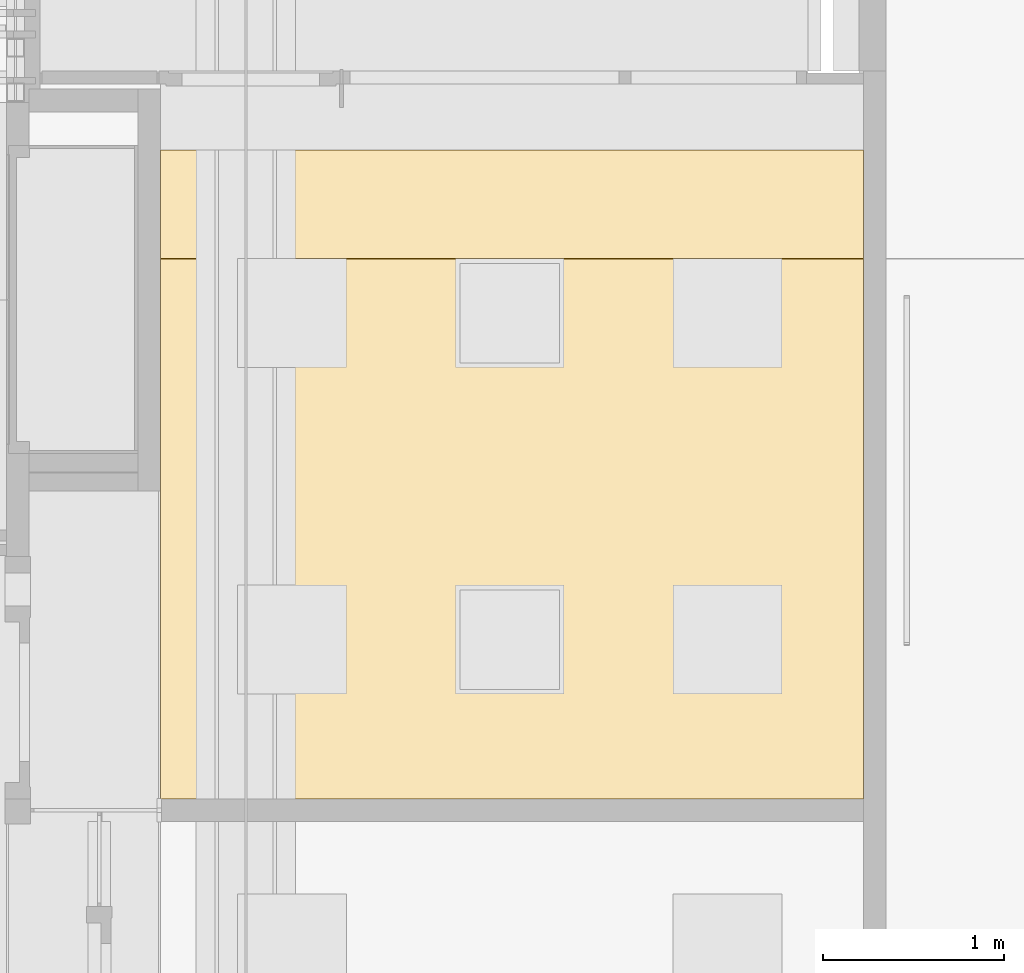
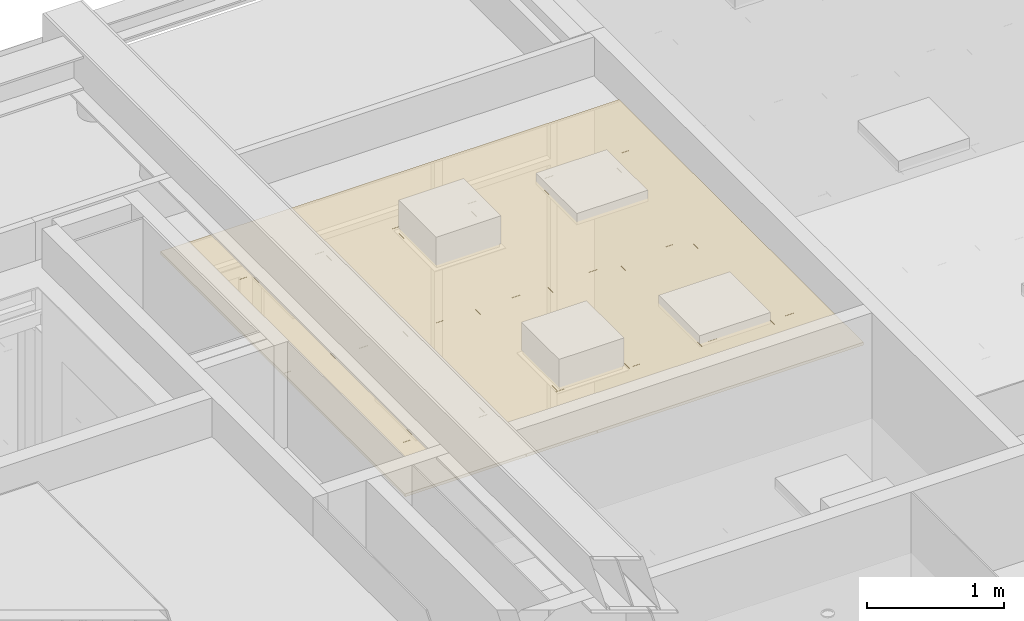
# One storey, part 175 of 347: 1 covering.
"""IFC2X3 building model written with IfcOpenShell, lengths in millimetres."""

from ifc_helpers import new_model, entity, si_unit, converted_unit, derived_unit, money_unit, direction, frame, origin_with_axes, place, context, subcontext, project, spatial, faceted_brep, type_object, element, save


model = new_model("IFC2X3")

# Units and contexts
model_context = context("Model", 3, precision=0.01, world=origin_with_axes(), true_north=direction((0.0, 1.0)))
plan_context = context("Plan", 3, precision=0.01, world=origin_with_axes(), true_north=direction((0.0, 1.0)))
body_context = subcontext(model_context, "Body", "Model", "MODEL_VIEW")
ifc_project = project(units=[si_unit("LENGTHUNIT", "METRE", prefix="MILLI"), si_unit("AREAUNIT", "SQUARE_METRE"), si_unit("VOLUMEUNIT", "CUBIC_METRE"), converted_unit("PLANEANGLEUNIT", "DEGREE", entity("IfcPlaneAngleMeasure", 0.0174532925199), si_unit("PLANEANGLEUNIT", "RADIAN"), dimensions=[0, 0, 0, 0, 0, 0, 0]), money_unit("EUR"), converted_unit("TIMEUNIT", "Year", entity("IfcTimeMeasure", 31556926.0), si_unit("TIMEUNIT", "SECOND"), dimensions=[0, 0, 1, 0, 0, 0, 0]), si_unit("MASSUNIT", "GRAM", prefix="KILO"), si_unit("THERMODYNAMICTEMPERATUREUNIT", "DEGREE_CELSIUS"), si_unit("LUMINOUSINTENSITYUNIT", "LUMEN"), si_unit("ENERGYUNIT", "JOULE", prefix="MEGA"), derived_unit("THERMALCONDUCTANCEUNIT", [(si_unit("POWERUNIT", "WATT"), 1), (si_unit("LENGTHUNIT", "METRE"), -1), (si_unit("THERMODYNAMICTEMPERATUREUNIT", "KELVIN"), -1)]), derived_unit("SPECIFICHEATCAPACITYUNIT", [(si_unit("ENERGYUNIT", "JOULE"), 1), (si_unit("MASSUNIT", "GRAM", prefix="KILO"), -1), (si_unit("THERMODYNAMICTEMPERATUREUNIT", "KELVIN"), -1)]), derived_unit("MASSDENSITYUNIT", [(si_unit("MASSUNIT", "GRAM", prefix="KILO"), 1), (si_unit("VOLUMEUNIT", "CUBIC_METRE"), -1)])], contexts=[model_context, plan_context])

# Site, building, storey
site_placement = place(None, origin_with_axes())
site = spatial("IfcSite", under=ifc_project, at=site_placement, Name="Site", CompositionType="ELEMENT")
building_placement = place(site_placement, origin_with_axes())
building = spatial("IfcBuilding", under=site, at=building_placement, Name="Naam gebouw", CompositionType="ELEMENT")
storey_placement = place(building_placement, origin_with_axes())
storey = spatial("IfcBuildingStorey", under=building, at=storey_placement, Name="begane grond", CompositionType="ELEMENT", Elevation=0.0)

# Covering
covering_type = type_object("IfcCoveringType", Name="Ceiling Editor INT_v2.01", PredefinedType="CEILING")
covering_placement = place(storey_placement, frame((47950.0, 41212.5, 3200.0), z_axis=(0.0, 0.0, 1.0), x_axis=(1.0, 0.0, 0.0)))
element("IfcCovering", 1, at=covering_placement, inside=storey, type_object=covering_type, Name="45 Plafondafwerkingen_77 garderobe", PredefinedType="CEILING", context=body_context, shape_type="Brep", body=[
    faceted_brep([(0.0, 0.0, 20.0), (0.0, 577.9, 20.0), (-449.9, 577.9, 20.0), (-449.9, 0.0, 20.0), (0.0, 0.0, 0.0), (0.0, 577.9, 0.0), (-449.9, 577.9, 0.0), (-449.9, 0.0, 0.0)], [[[0, 1, 2, 3]], [[1, 0, 4, 5]], [[5, 6, 2, 1]], [[3, 2, 6, 7]], [[3, 7, 4, 0]], [[4, 7, 6, 5]]]),
    faceted_brep([(0.0, 1777.9, 0.0), (-449.9, 1777.9, 0.0), (-449.9, 1777.9, 20.0), (0.0, 1777.9, 20.0), (0.0, 978.125, 0.0), (0.0, 578.1, 0.0), (-449.9, 578.1, 0.0), (-449.9, 578.1, 20.0), (0.0, 978.125, 20.0), (0.0, 578.1, 20.0)], [[[0, 1, 2, 3]], [[4, 5, 6, 1, 0]], [[7, 2, 1, 6]], [[8, 3, 2, 7, 9]], [[3, 8, 4, 0]], [[9, 5, 4, 8]], [[9, 7, 6, 5]]]),
    faceted_brep([(-0.000220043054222, 2977.9, 0.0), (-449.9, 2977.9, 0.0), (-449.9, 2977.9, 20.0), (-0.000220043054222, 2977.9, 20.0), (0.0, 2934.375, 0.0), (0.0, 1956.25, 0.0), (0.0, 1778.1, 0.0), (-449.9, 1778.1, 0.0), (-449.9, 1778.1, 20.0), (0.0, 1956.25, 20.0), (0.0, 2934.375, 20.0), (0.0, 1778.1, 20.0)], [[[0, 1, 2, 3]], [[4, 5, 6, 7, 1, 0]], [[8, 2, 1, 7]], [[9, 10, 3, 2, 8, 11]], [[3, 10, 4, 0]], [[9, 5, 4, 10]], [[11, 6, 5, 9]], [[11, 8, 7, 6]]]),
    faceted_brep([(-449.9, 3578.5, 0.0), (-449.9, 2978.1, 0.0), (-449.9, 2978.1, 20.0), (-449.9, 3578.5, 20.0), (-0.00325640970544, 3578.5, 0.0), (-0.000221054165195, 2978.1, 0.0), (-0.000221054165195, 2978.1, 20.0), (-0.00325640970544, 3578.5, 20.0)], [[[0, 1, 2, 3]], [[4, 5, 1, 0]], [[6, 2, 1, 5]], [[7, 3, 2, 6]], [[3, 7, 4, 0]], [[6, 5, 4, 7]]]),
    faceted_brep([(-968.75, 0.0, 20.0), (-450.1, 0.0, 20.0), (-450.1, 577.9, 20.0), (-1049.9, 577.9, 20.0), (-1049.9, 0.0, 20.0), (-968.75, 0.0, 0.0), (-450.1, 0.0, 0.0), (-450.1, 577.9, 0.0), (-1049.9, 577.9, 0.0), (-1049.9, 0.0, 0.0)], [[[0, 1, 2, 3, 4]], [[0, 5, 6, 1]], [[6, 7, 2, 1]], [[3, 2, 7, 8]], [[4, 3, 8, 9]], [[4, 9, 5, 0]], [[5, 9, 8, 7, 6]]]),
    faceted_brep([(-1049.9, 578.1, 20.0), (-1049.9, 1777.9, 20.0), (-1049.9, 1777.9, 0.0), (-1049.9, 578.1, 0.0), (-450.1, 578.1, 20.0), (-450.1, 1777.9, 20.0), (-450.1, 1777.9, 0.0), (-450.1, 578.1, 0.0)], [[[0, 1, 2, 3]], [[4, 5, 1, 0]], [[1, 5, 6, 2]], [[2, 6, 7, 3]], [[4, 0, 3, 7]], [[5, 4, 7, 6]]]),
    faceted_brep([(-1049.9, 1778.1, 20.0), (-1049.9, 2977.9, 20.0), (-1049.9, 2977.9, 0.0), (-1049.9, 1778.1, 0.0), (-450.1, 1778.1, 20.0), (-450.1, 2977.9, 20.0), (-450.1, 2977.9, 0.0), (-450.1, 1778.1, 0.0)], [[[0, 1, 2, 3]], [[4, 5, 1, 0]], [[1, 5, 6, 2]], [[2, 6, 7, 3]], [[4, 0, 3, 7]], [[5, 4, 7, 6]]]),
    faceted_brep([(-1049.9, 3578.5, 0.0), (-1049.9, 2978.1, 0.0), (-1049.9, 2978.1, 20.0), (-1049.9, 3578.5, 20.0), (-450.1, 3578.5, 0.0), (-450.1, 2978.1, 0.0), (-450.1, 2978.1, 20.0), (-450.1, 3578.5, 20.0)], [[[0, 1, 2, 3]], [[4, 5, 1, 0]], [[6, 2, 1, 5]], [[3, 2, 6, 7]], [[3, 7, 4, 0]], [[7, 6, 5, 4]]]),
    faceted_brep([(-1050.1, 0.0, 20.0), (-1050.1, 577.9, 20.0), (-1649.9, 577.9, 20.0), (-1649.9, 0.0, 20.0), (-1050.1, 0.0, 0.0), (-1050.1, 577.9, 0.0), (-1649.9, 577.9, 0.0), (-1649.9, 0.0, 0.0)], [[[0, 1, 2, 3]], [[4, 5, 1, 0]], [[2, 1, 5, 6]], [[3, 2, 6, 7]], [[3, 7, 4, 0]], [[7, 6, 5, 4]]]),
    faceted_brep([(-1649.9, 578.1, 20.0), (-1649.9, 1777.9, 20.0), (-1649.9, 1777.9, 0.0), (-1649.9, 578.1, 0.0), (-1050.1, 578.1, 20.0), (-1050.1, 1777.9, 20.0), (-1050.1, 1777.9, 0.0), (-1050.1, 578.1, 0.0)], [[[0, 1, 2, 3]], [[4, 5, 1, 0]], [[1, 5, 6, 2]], [[2, 6, 7, 3]], [[4, 0, 3, 7]], [[5, 4, 7, 6]]]),
    faceted_brep([(-1649.9, 1778.1, 20.0), (-1649.9, 2977.9, 20.0), (-1649.9, 2977.9, 0.0), (-1649.9, 1778.1, 0.0), (-1050.1, 1778.1, 20.0), (-1050.1, 2977.9, 20.0), (-1050.1, 2977.9, 0.0), (-1050.1, 1778.1, 0.0)], [[[0, 1, 2, 3]], [[4, 5, 1, 0]], [[1, 5, 6, 2]], [[2, 6, 7, 3]], [[4, 0, 3, 7]], [[5, 4, 7, 6]]]),
    faceted_brep([(-1649.9, 3578.5, 0.0), (-1649.9, 2978.1, 0.0), (-1649.9, 2978.1, 20.0), (-1649.9, 3578.5, 20.0), (-1222.4308739, 3578.5, 0.0), (-1050.1, 3578.5, 0.0), (-1050.1, 2978.1, 0.0), (-1050.1, 2978.1, 20.0), (-1222.4308739, 3578.5, 20.0), (-1050.1, 3578.5, 20.0)], [[[0, 1, 2, 3]], [[4, 5, 6, 1, 0]], [[7, 2, 1, 6]], [[8, 3, 2, 7, 9]], [[3, 8, 4, 0]], [[9, 5, 4, 8]], [[9, 7, 6, 5]]]),
    faceted_brep([(-1937.5, 0.0, 20.0), (-1650.1, 0.0, 20.0), (-1650.1, 577.9, 20.0), (-2249.9, 577.9, 20.0), (-2249.9, 0.0, 20.0), (-1937.5, 0.0, 0.0), (-1650.1, 0.0, 0.0), (-1650.1, 577.9, 0.0), (-2249.9, 577.9, 0.0), (-2249.9, 0.0, 0.0)], [[[0, 1, 2, 3, 4]], [[0, 5, 6, 1]], [[6, 7, 2, 1]], [[3, 2, 7, 8]], [[4, 3, 8, 9]], [[4, 9, 5, 0]], [[5, 9, 8, 7, 6]]]),
    faceted_brep([(-2249.9, 578.1, 20.0), (-2249.9, 1777.9, 20.0), (-2249.9, 1777.9, 0.0), (-2249.9, 578.1, 0.0), (-1650.1, 578.1, 20.0), (-1650.1, 1777.9, 20.0), (-1650.1, 1777.9, 0.0), (-1650.1, 578.1, 0.0)], [[[0, 1, 2, 3]], [[4, 5, 1, 0]], [[1, 5, 6, 2]], [[2, 6, 7, 3]], [[4, 0, 3, 7]], [[5, 4, 7, 6]]]),
    faceted_brep([(-2249.9, 1778.1, 20.0), (-2249.9, 2977.9, 20.0), (-2249.9, 2977.9, 0.0), (-2249.9, 1778.1, 0.0), (-1650.1, 1778.1, 20.0), (-1650.1, 2977.9, 20.0), (-1650.1, 2977.9, 0.0), (-1650.1, 1778.1, 0.0)], [[[0, 1, 2, 3]], [[4, 5, 1, 0]], [[1, 5, 6, 2]], [[2, 6, 7, 3]], [[4, 0, 3, 7]], [[5, 4, 7, 6]]]),
    faceted_brep([(-2249.9, 3578.5, 0.0), (-2249.9, 2978.1, 0.0), (-2249.9, 2978.1, 20.0), (-2249.9, 3578.5, 20.0), (-2026.99503027, 3578.5, 0.0), (-1650.1, 3578.5, 0.0), (-1650.1, 2978.1, 0.0), (-1650.1, 2978.1, 20.0), (-2026.99503027, 3578.5, 20.0), (-1650.1, 3578.5, 20.0)], [[[0, 1, 2, 3]], [[4, 5, 6, 1, 0]], [[7, 2, 1, 6]], [[8, 3, 2, 7, 9]], [[3, 8, 4, 0]], [[9, 5, 4, 8]], [[9, 7, 6, 5]]]),
    faceted_brep([(-2250.1, 0.0, 20.0), (-2250.1, 577.9, 20.0), (-2849.9, 577.9, 20.0), (-2849.9, 0.0, 20.0), (-2250.1, 0.0, 0.0), (-2250.1, 577.9, 0.0), (-2849.9, 577.9, 0.0), (-2849.9, 0.0, 0.0)], [[[0, 1, 2, 3]], [[4, 5, 1, 0]], [[2, 1, 5, 6]], [[3, 2, 6, 7]], [[3, 7, 4, 0]], [[7, 6, 5, 4]]]),
    faceted_brep([(-2849.9, 578.1, 20.0), (-2849.9, 1777.9, 20.0), (-2849.9, 1777.9, 0.0), (-2849.9, 578.1, 0.0), (-2250.1, 578.1, 20.0), (-2250.1, 1777.9, 20.0), (-2250.1, 1777.9, 0.0), (-2250.1, 578.1, 0.0)], [[[0, 1, 2, 3]], [[4, 5, 1, 0]], [[1, 5, 6, 2]], [[2, 6, 7, 3]], [[4, 0, 3, 7]], [[5, 4, 7, 6]]]),
    faceted_brep([(-2849.9, 1778.1, 20.0), (-2849.9, 2977.9, 20.0), (-2849.9, 2977.9, 0.0), (-2849.9, 1778.1, 0.0), (-2250.1, 1778.1, 20.0), (-2250.1, 2977.9, 20.0), (-2250.1, 2977.9, 0.0), (-2250.1, 1778.1, 0.0)], [[[0, 1, 2, 3]], [[4, 5, 1, 0]], [[1, 5, 6, 2]], [[2, 6, 7, 3]], [[4, 0, 3, 7]], [[5, 4, 7, 6]]]),
    faceted_brep([(-2849.9, 3578.5, 0.0), (-2849.9, 2978.1, 0.0), (-2849.9, 2978.1, 20.0), (-2849.9, 3578.5, 20.0), (-2748.79430981, 3578.5, 0.0), (-2250.1, 3578.5, 0.0), (-2250.1, 2978.1, 0.0), (-2250.1, 2978.1, 20.0), (-2748.79430981, 3578.5, 20.0), (-2250.1, 3578.5, 20.0)], [[[0, 1, 2, 3]], [[4, 5, 6, 1, 0]], [[7, 2, 1, 6]], [[8, 3, 2, 7, 9]], [[3, 8, 4, 0]], [[9, 5, 4, 8]], [[9, 7, 6, 5]]]),
    faceted_brep([(-2906.25, 0.0, 20.0), (-2850.1, 0.0, 20.0), (-2850.1, 577.9, 20.0), (-3449.9, 577.9, 20.0), (-3449.9, 0.0, 20.0), (-2906.25, 0.0, 0.0), (-2850.1, 0.0, 0.0), (-2850.1, 577.9, 0.0), (-3449.9, 577.9, 0.0), (-3449.9, 0.0, 0.0)], [[[0, 1, 2, 3, 4]], [[0, 5, 6, 1]], [[6, 7, 2, 1]], [[3, 2, 7, 8]], [[4, 3, 8, 9]], [[4, 9, 5, 0]], [[5, 9, 8, 7, 6]]]),
    faceted_brep([(-3449.9, 578.1, 20.0), (-3449.9, 1777.9, 20.0), (-3449.9, 1777.9, 0.0), (-3449.9, 578.1, 0.0), (-2850.1, 578.1, 20.0), (-2850.1, 1777.9, 20.0), (-2850.1, 1777.9, 0.0), (-2850.1, 578.1, 0.0)], [[[0, 1, 2, 3]], [[4, 5, 1, 0]], [[1, 5, 6, 2]], [[2, 6, 7, 3]], [[4, 0, 3, 7]], [[5, 4, 7, 6]]]),
    faceted_brep([(-3449.9, 1778.1, 20.0), (-3449.9, 2977.9, 20.0), (-3449.9, 2977.9, 0.0), (-3449.9, 1778.1, 0.0), (-2850.1, 1778.1, 20.0), (-2850.1, 2977.9, 20.0), (-2850.1, 2977.9, 0.0), (-2850.1, 1778.1, 0.0)], [[[0, 1, 2, 3]], [[4, 5, 1, 0]], [[1, 5, 6, 2]], [[2, 6, 7, 3]], [[4, 0, 3, 7]], [[5, 4, 7, 6]]]),
    faceted_brep([(-3449.9, 3578.5, 0.0), (-3449.9, 2978.1, 0.0), (-3449.9, 2978.1, 20.0), (-3449.9, 3578.5, 20.0), (-2850.1, 3578.5, 0.0), (-2850.1, 2978.1, 0.0), (-2850.1, 2978.1, 20.0), (-2850.1, 3578.5, 20.0)], [[[0, 1, 2, 3]], [[4, 5, 1, 0]], [[6, 2, 1, 5]], [[3, 2, 6, 7]], [[3, 7, 4, 0]], [[7, 6, 5, 4]]]),
    faceted_brep([(-3875.0, 0.0, 20.0), (-3450.1, 0.0, 20.0), (-3450.1, 577.9, 20.0), (-3875.0, 577.9, 20.0), (-3875.0, 0.0, 0.0), (-3450.1, 0.0, 0.0), (-3450.1, 577.9, 0.0), (-3875.0, 577.9, 0.0)], [[[0, 1, 2, 3]], [[0, 4, 5, 1]], [[5, 6, 2, 1]], [[3, 2, 6, 7]], [[3, 7, 4, 0]], [[4, 7, 6, 5]]]),
    faceted_brep([(-3875.0, 578.1, 20.0), (-3450.1, 578.1, 20.0), (-3450.1, 1777.9, 20.0), (-3875.0, 1777.9, 20.0), (-3875.0, 578.1, 0.0), (-3450.1, 578.1, 0.0), (-3450.1, 1777.9, 0.0), (-3875.0, 1777.9, 0.0)], [[[0, 1, 2, 3]], [[4, 5, 1, 0]], [[2, 1, 5, 6]], [[3, 2, 6, 7]], [[3, 7, 4, 0]], [[7, 6, 5, 4]]]),
    faceted_brep([(-3875.0, 2934.375, 20.0), (-3875.0, 1778.1, 20.0), (-3450.1, 1778.1, 20.0), (-3450.1, 2977.9, 20.0), (-3875.0, 2977.9, 20.0), (-3875.0, 2934.375, 0.0), (-3875.0, 1778.1, 0.0), (-3450.1, 1778.1, 0.0), (-3450.1, 2977.9, 0.0), (-3875.0, 2977.9, 0.0)], [[[0, 1, 2, 3, 4]], [[0, 5, 6, 1]], [[6, 7, 2, 1]], [[3, 2, 7, 8]], [[4, 3, 8, 9]], [[4, 9, 5, 0]], [[5, 9, 8, 7, 6]]]),
    faceted_brep([(-3875.0, 2978.1, 20.0), (-3450.1, 2978.1, 20.0), (-3450.1, 3578.5, 20.0), (-3875.0, 3578.5, 20.0), (-3875.0, 2978.1, 0.0), (-3450.1, 2978.1, 0.0), (-3450.1, 3578.5, 0.0), (-3875.0, 3578.5, 0.0)], [[[0, 1, 2, 3]], [[4, 5, 1, 0]], [[2, 1, 5, 6]], [[2, 6, 7, 3]], [[3, 7, 4, 0]], [[7, 6, 5, 4]]]),
    faceted_brep([(-3875.0, 0.0, 0.0), (-3875.0, 565.5, 0.0), (-3875.0, 590.5, 0.0), (-3875.0, 1765.5, 0.0), (-3875.0, 1778.0, 0.0), (-3875.0, 1778.0, -5.0), (-3875.0, 1765.5, -5.0), (-3875.0, 590.5, -5.0), (-3875.0, 565.5, -5.0), (-3875.0, 0.0, -5.0), (-2237.5, 0.0, 0.0), (-1662.5, 0.0, 0.0), (-1637.5, 0.0, 0.0), (-1062.5, 0.0, 0.0), (-1037.5, 0.0, 0.0), (-462.5, 0.0, 0.0), (-437.5, 0.0, 0.0), (0.0, 0.0, 0.0), (0.0, 565.5, 0.0), (0.0, 590.5, 0.0), (0.0, 1765.5, 0.0), (0.0, 1790.5, 0.0), (-0.000157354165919, 2965.5, 0.0), (-0.000283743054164, 2990.5, 0.0), (-0.00325640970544, 3578.5, 0.0), (-437.5, 3578.5, 0.0), (-462.5, 3578.5, 0.0), (-1037.5, 3578.5, 0.0), (-1062.5, 3578.5, 0.0), (-1637.5, 3578.5, 0.0), (-1662.5, 3578.5, 0.0), (-2237.5, 3578.5, 0.0), (-2262.5, 3578.5, 0.0), (-2837.5, 3578.5, 0.0), (-2862.5, 3578.5, 0.0), (-3437.5, 3578.5, 0.0), (-3462.5, 3578.5, 0.0), (-3875.0, 3578.5, 0.0), (-3875.0, 2990.5, 0.0), (-3875.0, 2965.5, 0.0), (-3875.0, 1790.5, 0.0), (-3462.5, 0.0, 0.0), (-3437.5, 0.0, 0.0), (-2862.5, 0.0, 0.0), (-2837.5, 0.0, 0.0), (-2262.5, 0.0, 0.0), (-462.5, 1765.5, 0.0), (-462.5, 590.5, 0.0), (-1037.5, 590.5, 0.0), (-1037.5, 1765.5, 0.0), (-1062.5, 1765.5, 0.0), (-1062.5, 590.5, 0.0), (-1637.5, 590.5, 0.0), (-1637.5, 1765.5, 0.0), (-1662.5, 1765.5, 0.0), (-1662.5, 590.5, 0.0), (-2237.5, 590.5, 0.0), (-2237.5, 1765.5, 0.0), (-2262.5, 1765.5, 0.0), (-2262.5, 590.5, 0.0), (-2837.5, 590.5, 0.0), (-2837.5, 1765.5, 0.0), (-2862.5, 1765.5, 0.0), (-2862.5, 590.5, 0.0), (-3437.5, 590.5, 0.0), (-3437.5, 1765.5, 0.0), (-462.5, 2965.5, 0.0), (-462.5, 1790.5, 0.0), (-1037.5, 1790.5, 0.0), (-1037.5, 2965.5, 0.0), (-1062.5, 2965.5, 0.0), (-1062.5, 1790.5, 0.0), (-1637.5, 1790.5, 0.0), (-1637.5, 2965.5, 0.0), (-1662.5, 2965.5, 0.0), (-1662.5, 1790.5, 0.0), (-2237.5, 1790.5, 0.0), (-2237.5, 2965.5, 0.0), (-2262.5, 2965.5, 0.0), (-2262.5, 1790.5, 0.0), (-2837.5, 1790.5, 0.0), (-2837.5, 2965.5, 0.0), (-2862.5, 2965.5, 0.0), (-2862.5, 1790.5, 0.0), (-3437.5, 1790.5, 0.0), (-3437.5, 2965.5, 0.0), (-25.0, 565.5, 0.0), (-25.0, 25.0, 0.0), (-437.5, 25.0, 0.0), (-437.5, 565.5, 0.0), (-25.0, 1765.5, 0.0), (-25.0, 590.5, 0.0), (-437.5, 590.5, 0.0), (-437.5, 1765.5, 0.0), (-25.0001573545, 2965.5, 0.0), (-25.0, 1790.5, 0.0), (-437.5, 1790.5, 0.0), (-437.5, 2965.5, 0.0), (-437.5, 3553.5, 0.0), (-25.0031300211, 3553.5, 0.0), (-25.0002837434, 2990.5, 0.0), (-437.5, 2990.5, 0.0), (-1037.5, 3553.5, 0.0), (-462.5, 3553.5, 0.0), (-462.5, 2990.5, 0.0), (-1037.5, 2990.5, 0.0), (-1637.5, 3553.5, 0.0), (-1062.5, 3553.5, 0.0), (-1062.5, 2990.5, 0.0), (-1637.5, 2990.5, 0.0), (-2237.5, 3553.5, 0.0), (-1662.5, 3553.5, 0.0), (-1662.5, 2990.5, 0.0), (-2237.5, 2990.5, 0.0), (-2837.5, 3553.5, 0.0), (-2262.5, 3553.5, 0.0), (-2262.5, 2990.5, 0.0), (-2837.5, 2990.5, 0.0), (-3437.5, 3553.5, 0.0), (-2862.5, 3553.5, 0.0), (-2862.5, 2990.5, 0.0), (-3437.5, 2990.5, 0.0), (-3850.0, 3553.5, 0.0), (-3462.5, 3553.5, 0.0), (-3462.5, 2990.5, 0.0), (-3850.0, 2990.5, 0.0), (-3850.0, 1790.5, 0.0), (-3850.0, 2965.5, 0.0), (-3462.5, 2965.5, 0.0), (-3462.5, 1790.5, 0.0), (-3850.0, 590.5, 0.0), (-3850.0, 1765.5, 0.0), (-3462.5, 1765.5, 0.0), (-3462.5, 590.5, 0.0), (-3850.0, 25.0, 0.0), (-3850.0, 565.5, 0.0), (-3462.5, 565.5, 0.0), (-3462.5, 25.0, 0.0), (-2837.5, 25.0, 0.0), (-2837.5, 565.5, 0.0), (-2262.5, 565.5, 0.0), (-2262.5, 25.0, 0.0), (-2862.5, 25.0, 0.0), (-3437.5, 25.0, 0.0), (-3437.5, 565.5, 0.0), (-2862.5, 565.5, 0.0), (-1037.5, 25.0, 0.0), (-1037.5, 565.5, 0.0), (-462.5, 565.5, 0.0), (-462.5, 25.0, 0.0), (-1637.5, 25.0, 0.0), (-1637.5, 565.5, 0.0), (-1062.5, 565.5, 0.0), (-1062.5, 25.0, 0.0), (-1662.5, 25.0, 0.0), (-2237.5, 25.0, 0.0), (-2237.5, 565.5, 0.0), (-1662.5, 565.5, 0.0), (-3875.0, 1790.5, -5.0), (-3875.0, 3578.5, -5.0), (-3875.0, 2990.5, -5.0), (-3875.0, 2965.5, -5.0), (-1662.5, 0.0, -5.0), (-2237.5, 0.0, -5.0), (-2262.5, 0.0, -5.0), (-2837.5, 0.0, -5.0), (-2862.5, 0.0, -5.0), (-3437.5, 0.0, -5.0), (-3462.5, 0.0, -5.0), (-3462.5, 3578.5, -5.0), (-3437.5, 3578.5, -5.0), (-2862.5, 3578.5, -5.0), (-2837.5, 3578.5, -5.0), (-2262.5, 3578.5, -5.0), (-2237.5, 3578.5, -5.0), (-1662.5, 3578.5, -5.0), (-1637.5, 3578.5, -5.0), (-1062.5, 3578.5, -5.0), (-1037.5, 3578.5, -5.0), (-462.5, 3578.5, -5.0), (-437.5, 3578.5, -5.0), (-0.00325640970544, 3578.5, -5.0), (-0.000283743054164, 2990.5, -5.0), (-0.000157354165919, 2965.5, -5.0), (0.0, 1790.5, -5.0), (0.0, 1765.5, -5.0), (0.0, 590.5, -5.0), (0.0, 565.5, -5.0), (0.0, 0.0, -5.0), (-437.5, 0.0, -5.0), (-462.5, 0.0, -5.0), (-1037.5, 0.0, -5.0), (-1062.5, 0.0, -5.0), (-1637.5, 0.0, -5.0), (-1037.5, 590.5, -5.0), (-462.5, 590.5, -5.0), (-462.5, 1765.5, -5.0), (-1037.5, 1765.5, -5.0), (-1637.5, 590.5, -5.0), (-1062.5, 590.5, -5.0), (-1062.5, 1765.5, -5.0), (-1637.5, 1765.5, -5.0), (-2237.5, 590.5, -5.0), (-1662.5, 590.5, -5.0), (-1662.5, 1765.5, -5.0), (-2237.5, 1765.5, -5.0), (-2837.5, 590.5, -5.0), (-2262.5, 590.5, -5.0), (-2262.5, 1765.5, -5.0), (-2837.5, 1765.5, -5.0), (-3437.5, 590.5, -5.0), (-2862.5, 590.5, -5.0), (-2862.5, 1765.5, -5.0), (-3437.5, 1765.5, -5.0), (-1037.5, 1790.5, -5.0), (-462.5, 1790.5, -5.0), (-462.5, 2965.5, -5.0), (-1037.5, 2965.5, -5.0), (-1637.5, 1790.5, -5.0), (-1062.5, 1790.5, -5.0), (-1062.5, 2965.5, -5.0), (-1637.5, 2965.5, -5.0), (-2237.5, 1790.5, -5.0), (-1662.5, 1790.5, -5.0), (-1662.5, 2965.5, -5.0), (-2237.5, 2965.5, -5.0), (-2837.5, 1790.5, -5.0), (-2262.5, 1790.5, -5.0), (-2262.5, 2965.5, -5.0), (-2837.5, 2965.5, -5.0), (-3437.5, 1790.5, -5.0), (-2862.5, 1790.5, -5.0), (-2862.5, 2965.5, -5.0), (-3437.5, 2965.5, -5.0), (-25.0, 565.5, -5.0), (-437.5, 565.5, -5.0), (-437.5, 25.0, -5.0), (-25.0, 25.0, -5.0), (-25.0, 1765.5, -5.0), (-437.5, 1765.5, -5.0), (-437.5, 590.5, -5.0), (-25.0, 590.5, -5.0), (-25.0001573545, 2965.5, -5.0), (-437.5, 2965.5, -5.0), (-437.5, 1790.5, -5.0), (-25.0, 1790.5, -5.0), (-437.5, 3553.5, -5.0), (-437.5, 2990.5, -5.0), (-25.0002837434, 2990.5, -5.0), (-25.0031300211, 3553.5, -5.0), (-1037.5, 3553.5, -5.0), (-1037.5, 2990.5, -5.0), (-462.5, 2990.5, -5.0), (-462.5, 3553.5, -5.0), (-1637.5, 3553.5, -5.0), (-1637.5, 2990.5, -5.0), (-1062.5, 2990.5, -5.0), (-1062.5, 3553.5, -5.0), (-2237.5, 3553.5, -5.0), (-2237.5, 2990.5, -5.0), (-1662.5, 2990.5, -5.0), (-1662.5, 3553.5, -5.0), (-2837.5, 3553.5, -5.0), (-2837.5, 2990.5, -5.0), (-2262.5, 2990.5, -5.0), (-2262.5, 3553.5, -5.0), (-3437.5, 3553.5, -5.0), (-3437.5, 2990.5, -5.0), (-2862.5, 2990.5, -5.0), (-2862.5, 3553.5, -5.0), (-3850.0, 3553.5, -5.0), (-3850.0, 2990.5, -5.0), (-3462.5, 2990.5, -5.0), (-3462.5, 3553.5, -5.0), (-3850.0, 2965.5, -5.0), (-3850.0, 1790.5, -5.0), (-3462.5, 1790.5, -5.0), (-3462.5, 2965.5, -5.0), (-3850.0, 1765.5, -5.0), (-3850.0, 590.5, -5.0), (-3462.5, 590.5, -5.0), (-3462.5, 1765.5, -5.0), (-3850.0, 25.0, -5.0), (-3462.5, 25.0, -5.0), (-3462.5, 565.5, -5.0), (-3850.0, 565.5, -5.0), (-2837.5, 25.0, -5.0), (-2262.5, 25.0, -5.0), (-2262.5, 565.5, -5.0), (-2837.5, 565.5, -5.0), (-3437.5, 25.0, -5.0), (-2862.5, 25.0, -5.0), (-2862.5, 565.5, -5.0), (-3437.5, 565.5, -5.0), (-1037.5, 25.0, -5.0), (-462.5, 25.0, -5.0), (-462.5, 565.5, -5.0), (-1037.5, 565.5, -5.0), (-1637.5, 25.0, -5.0), (-1062.5, 25.0, -5.0), (-1062.5, 565.5, -5.0), (-1637.5, 565.5, -5.0), (-2237.5, 25.0, -5.0), (-1662.5, 25.0, -5.0), (-1662.5, 565.5, -5.0), (-2237.5, 565.5, -5.0)], [[[0, 1, 2, 3, 4, 5, 6, 7, 8, 9]], [[10, 11, 12, 13, 14, 15, 16, 17, 18, 19, 20, 21, 22, 23, 24, 25, 26, 27, 28, 29, 30, 31, 32, 33, 34, 35, 36, 37, 38, 39, 40, 4, 3, 2, 1, 0, 41, 42, 43, 44, 45], [46, 47, 48, 49], [50, 51, 52, 53], [54, 55, 56, 57], [58, 59, 60, 61], [62, 63, 64, 65], [66, 67, 68, 69], [70, 71, 72, 73], [74, 75, 76, 77], [78, 79, 80, 81], [82, 83, 84, 85], [86, 87, 88, 89], [90, 91, 92, 93], [94, 95, 96, 97], [98, 99, 100, 101], [102, 103, 104, 105], [106, 107, 108, 109], [110, 111, 112, 113], [114, 115, 116, 117], [118, 119, 120, 121], [122, 123, 124, 125], [126, 127, 128, 129], [130, 131, 132, 133], [134, 135, 136, 137], [138, 139, 140, 141], [142, 143, 144, 145], [146, 147, 148, 149], [150, 151, 152, 153], [154, 155, 156, 157]], [[158, 5, 4, 40, 39, 38, 37, 159, 160, 161]], [[162, 163, 164, 165, 166, 167, 168, 9, 8, 7, 6, 5, 158, 161, 160, 159, 169, 170, 171, 172, 173, 174, 175, 176, 177, 178, 179, 180, 181, 182, 183, 184, 185, 186, 187, 188, 189, 190, 191, 192, 193], [194, 195, 196, 197], [198, 199, 200, 201], [202, 203, 204, 205], [206, 207, 208, 209], [210, 211, 212, 213], [214, 215, 216, 217], [218, 219, 220, 221], [222, 223, 224, 225], [226, 227, 228, 229], [230, 231, 232, 233], [234, 235, 236, 237], [238, 239, 240, 241], [242, 243, 244, 245], [246, 247, 248, 249], [250, 251, 252, 253], [254, 255, 256, 257], [258, 259, 260, 261], [262, 263, 264, 265], [266, 267, 268, 269], [270, 271, 272, 273], [274, 275, 276, 277], [278, 279, 280, 281], [282, 283, 284, 285], [286, 287, 288, 289], [290, 291, 292, 293], [294, 295, 296, 297], [298, 299, 300, 301], [302, 303, 304, 305]], [[162, 193, 192, 191, 190, 189, 188, 17, 16, 15, 14, 13, 12, 11, 10, 45, 44, 43, 42, 41, 0, 9, 168, 167, 166, 165, 164, 163]], [[24, 23, 22, 21, 20, 19, 18, 17, 188, 187, 186, 185, 184, 183, 182, 181]], [[37, 36, 35, 34, 33, 32, 31, 30, 29, 28, 27, 26, 25, 24, 181, 180, 179, 178, 177, 176, 175, 174, 173, 172, 171, 170, 169, 159]], [[195, 47, 46, 196]], [[47, 195, 194, 48]], [[48, 194, 197, 49]], [[196, 46, 49, 197]], [[199, 51, 50, 200]], [[51, 199, 198, 52]], [[52, 198, 201, 53]], [[200, 50, 53, 201]], [[203, 55, 54, 204]], [[55, 203, 202, 56]], [[56, 202, 205, 57]], [[204, 54, 57, 205]], [[207, 59, 58, 208]], [[59, 207, 206, 60]], [[60, 206, 209, 61]], [[208, 58, 61, 209]], [[211, 63, 62, 212]], [[63, 211, 210, 64]], [[64, 210, 213, 65]], [[212, 62, 65, 213]], [[215, 67, 66, 216]], [[67, 215, 214, 68]], [[68, 214, 217, 69]], [[216, 66, 69, 217]], [[219, 71, 70, 220]], [[71, 219, 218, 72]], [[72, 218, 221, 73]], [[220, 70, 73, 221]], [[223, 75, 74, 224]], [[75, 223, 222, 76]], [[76, 222, 225, 77]], [[224, 74, 77, 225]], [[227, 79, 78, 228]], [[79, 227, 226, 80]], [[80, 226, 229, 81]], [[228, 78, 81, 229]], [[231, 83, 82, 232]], [[83, 231, 230, 84]], [[84, 230, 233, 85]], [[232, 82, 85, 233]], [[234, 237, 87, 86]], [[237, 236, 88, 87]], [[236, 235, 89, 88]], [[86, 89, 235, 234]], [[238, 241, 91, 90]], [[241, 240, 92, 91]], [[92, 240, 239, 93]], [[90, 93, 239, 238]], [[242, 245, 95, 94]], [[245, 244, 96, 95]], [[96, 244, 243, 97]], [[94, 97, 243, 242]], [[246, 249, 99, 98]], [[249, 248, 100, 99]], [[248, 247, 101, 100]], [[98, 101, 247, 246]], [[250, 253, 103, 102]], [[253, 252, 104, 103]], [[104, 252, 251, 105]], [[102, 105, 251, 250]], [[254, 257, 107, 106]], [[257, 256, 108, 107]], [[108, 256, 255, 109]], [[106, 109, 255, 254]], [[258, 261, 111, 110]], [[261, 260, 112, 111]], [[112, 260, 259, 113]], [[110, 113, 259, 258]], [[262, 265, 115, 114]], [[265, 264, 116, 115]], [[116, 264, 263, 117]], [[114, 117, 263, 262]], [[266, 269, 119, 118]], [[269, 268, 120, 119]], [[120, 268, 267, 121]], [[118, 121, 267, 266]], [[270, 273, 123, 122]], [[273, 272, 124, 123]], [[125, 124, 272, 271]], [[122, 125, 271, 270]], [[126, 275, 274, 127]], [[274, 277, 128, 127]], [[276, 129, 128, 277]], [[126, 129, 276, 275]], [[130, 279, 278, 131]], [[278, 281, 132, 131]], [[280, 133, 132, 281]], [[130, 133, 280, 279]], [[282, 285, 135, 134]], [[285, 284, 136, 135]], [[137, 136, 284, 283]], [[134, 137, 283, 282]], [[286, 289, 139, 138]], [[288, 140, 139, 289]], [[141, 140, 288, 287]], [[138, 141, 287, 286]], [[142, 291, 290, 143]], [[290, 293, 144, 143]], [[292, 145, 144, 293]], [[142, 145, 292, 291]], [[294, 297, 147, 146]], [[296, 148, 147, 297]], [[149, 148, 296, 295]], [[146, 149, 295, 294]], [[298, 301, 151, 150]], [[300, 152, 151, 301]], [[153, 152, 300, 299]], [[150, 153, 299, 298]], [[154, 303, 302, 155]], [[302, 305, 156, 155]], [[304, 157, 156, 305]], [[154, 157, 304, 303]]]),
])

save(model, "model.ifc")
